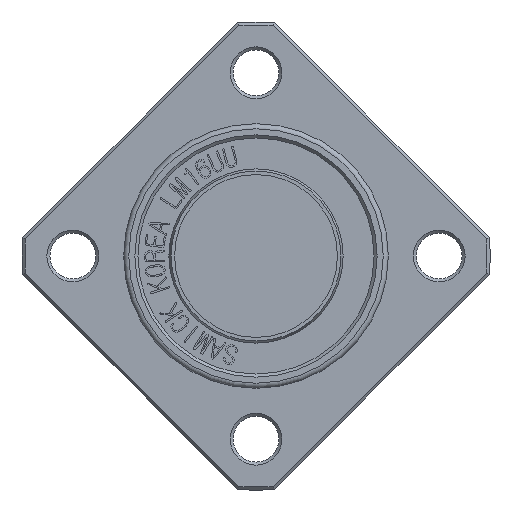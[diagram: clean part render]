
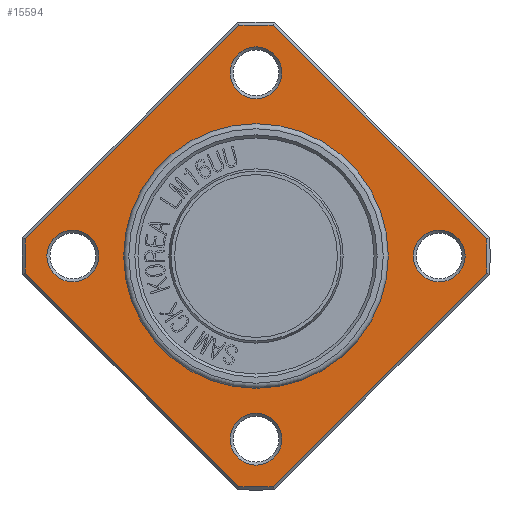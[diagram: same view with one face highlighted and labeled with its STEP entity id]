
A CAD part, front view. The second image highlights one B-rep face of the part: STEP entity #15594.
In plain terms, the highlighted planar face has unit normal (0, -1, 0).
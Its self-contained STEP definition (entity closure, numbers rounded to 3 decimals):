
#2215=FACE_BOUND('',#3388,.T.);
#2216=FACE_BOUND('',#3389,.T.);
#2217=FACE_BOUND('',#3390,.T.);
#2218=FACE_BOUND('',#3391,.T.);
#2219=FACE_BOUND('',#3392,.T.);
#2275=PLANE('',#16496);
#2516=FACE_OUTER_BOUND('',#3387,.T.);
#3387=EDGE_LOOP('',(#10751,#10752,#10753,#10754,#10755,#10756,#10757,#10758));
#3388=EDGE_LOOP('',(#10759));
#3389=EDGE_LOOP('',(#10760));
#3390=EDGE_LOOP('',(#10761,#10762));
#3391=EDGE_LOOP('',(#10763));
#3392=EDGE_LOOP('',(#10764));
#4315=LINE('',#18775,#5457);
#4316=LINE('',#18779,#5458);
#4317=LINE('',#18783,#5459);
#4318=LINE('',#18787,#5460);
#5457=VECTOR('',#16895,10.);
#5458=VECTOR('',#16898,10.);
#5459=VECTOR('',#16901,10.);
#5460=VECTOR('',#16904,10.);
#6606=CIRCLE('',#16494,2.55);
#6608=CIRCLE('',#16497,22.7);
#6609=CIRCLE('',#16498,22.7);
#6610=CIRCLE('',#16499,22.7);
#6611=CIRCLE('',#16500,22.7);
#6612=CIRCLE('',#16501,2.55);
#6613=CIRCLE('',#16502,2.55);
#6614=CIRCLE('',#16503,13.);
#6615=CIRCLE('',#16504,13.);
#6616=CIRCLE('',#16505,2.55);
#6700=VERTEX_POINT('',#18767);
#6702=VERTEX_POINT('',#18773);
#6703=VERTEX_POINT('',#18774);
#6704=VERTEX_POINT('',#18776);
#6705=VERTEX_POINT('',#18778);
#6706=VERTEX_POINT('',#18780);
#6707=VERTEX_POINT('',#18782);
#6708=VERTEX_POINT('',#18784);
#6709=VERTEX_POINT('',#18786);
#6710=VERTEX_POINT('',#18789);
#6711=VERTEX_POINT('',#18791);
#6712=VERTEX_POINT('',#18793);
#6713=VERTEX_POINT('',#18794);
#6714=VERTEX_POINT('',#18797);
#8318=EDGE_CURVE('',#6700,#6700,#6606,.T.);
#8321=EDGE_CURVE('',#6702,#6703,#4315,.T.);
#8322=EDGE_CURVE('',#6702,#6704,#6608,.T.);
#8323=EDGE_CURVE('',#6705,#6704,#4316,.T.);
#8324=EDGE_CURVE('',#6705,#6706,#6609,.T.);
#8325=EDGE_CURVE('',#6707,#6706,#4317,.T.);
#8326=EDGE_CURVE('',#6707,#6708,#6610,.T.);
#8327=EDGE_CURVE('',#6709,#6708,#4318,.T.);
#8328=EDGE_CURVE('',#6709,#6703,#6611,.T.);
#8329=EDGE_CURVE('',#6710,#6710,#6612,.T.);
#8330=EDGE_CURVE('',#6711,#6711,#6613,.T.);
#8331=EDGE_CURVE('',#6712,#6713,#6614,.T.);
#8332=EDGE_CURVE('',#6713,#6712,#6615,.T.);
#8333=EDGE_CURVE('',#6714,#6714,#6616,.T.);
#10751=ORIENTED_EDGE('',*,*,#8321,.F.);
#10752=ORIENTED_EDGE('',*,*,#8322,.T.);
#10753=ORIENTED_EDGE('',*,*,#8323,.F.);
#10754=ORIENTED_EDGE('',*,*,#8324,.T.);
#10755=ORIENTED_EDGE('',*,*,#8325,.F.);
#10756=ORIENTED_EDGE('',*,*,#8326,.T.);
#10757=ORIENTED_EDGE('',*,*,#8327,.F.);
#10758=ORIENTED_EDGE('',*,*,#8328,.T.);
#10759=ORIENTED_EDGE('',*,*,#8329,.F.);
#10760=ORIENTED_EDGE('',*,*,#8330,.F.);
#10761=ORIENTED_EDGE('',*,*,#8331,.F.);
#10762=ORIENTED_EDGE('',*,*,#8332,.F.);
#10763=ORIENTED_EDGE('',*,*,#8333,.F.);
#10764=ORIENTED_EDGE('',*,*,#8318,.F.);
#15594=ADVANCED_FACE('',(#2516,#2215,#2216,#2217,#2218,#2219),#2275,.T.);
#16494=AXIS2_PLACEMENT_3D('',#18768,#16888,#16889);
#16496=AXIS2_PLACEMENT_3D('',#18772,#16893,#16894);
#16497=AXIS2_PLACEMENT_3D('',#18777,#16896,#16897);
#16498=AXIS2_PLACEMENT_3D('',#18781,#16899,#16900);
#16499=AXIS2_PLACEMENT_3D('',#18785,#16902,#16903);
#16500=AXIS2_PLACEMENT_3D('',#18788,#16905,#16906);
#16501=AXIS2_PLACEMENT_3D('',#18790,#16907,#16908);
#16502=AXIS2_PLACEMENT_3D('',#18792,#16909,#16910);
#16503=AXIS2_PLACEMENT_3D('',#18795,#16911,#16912);
#16504=AXIS2_PLACEMENT_3D('',#18796,#16913,#16914);
#16505=AXIS2_PLACEMENT_3D('',#18798,#16915,#16916);
#16888=DIRECTION('center_axis',(0.,-1.,0.));
#16889=DIRECTION('ref_axis',(0.,0.,
1.));
#16893=DIRECTION('center_axis',(0.,-1.,0.));
#16894=DIRECTION('ref_axis',(0.,0.,-1.));
#16895=DIRECTION('',(-0.707,0.,-0.707));
#16896=DIRECTION('center_axis',(0.,-1.,0.));
#16897=DIRECTION('ref_axis',(1.,0.,0.));
#16898=DIRECTION('',(0.707,0.,-0.707));
#16899=DIRECTION('center_axis',(0.,-1.,0.));
#16900=DIRECTION('ref_axis',(1.,0.,0.));
#16901=DIRECTION('',(0.707,0.,0.707));
#16902=DIRECTION('center_axis',(0.,-1.,0.));
#16903=DIRECTION('ref_axis',(1.,0.,0.));
#16904=DIRECTION('',(-0.707,0.,0.707));
#16905=DIRECTION('center_axis',(0.,-1.,0.));
#16906=DIRECTION('ref_axis',(1.,0.,0.));
#16907=DIRECTION('center_axis',(0.,-1.,0.));
#16908=DIRECTION('ref_axis',(1.,0.,0.));
#16909=DIRECTION('center_axis',(0.,-1.,0.));
#16910=DIRECTION('ref_axis',(-1.,0.,0.));
#16911=DIRECTION('center_axis',(0.,-1.,0.));
#16912=DIRECTION('ref_axis',(1.,0.,0.));
#16913=DIRECTION('center_axis',(0.,-1.,0.));
#16914=DIRECTION('ref_axis',(1.,0.,0.));
#16915=DIRECTION('center_axis',(0.,-1.,0.));
#16916=DIRECTION('ref_axis',(0.,0.,-1.));
#18767=CARTESIAN_POINT('',(0.,23.,15.45));
#18768=CARTESIAN_POINT('Origin',(0.,23.,18.));
#18772=CARTESIAN_POINT('Origin',(13.,23.,0.));
#18773=CARTESIAN_POINT('',(22.637,23.,-1.687));
#18774=CARTESIAN_POINT('',(1.687,23.,-22.637));
#18775=CARTESIAN_POINT('',(10.136,23.,-14.189));
#18776=CARTESIAN_POINT('',(22.637,23.,1.687));
#18777=CARTESIAN_POINT('Origin',(0.,23.,0.));
#18778=CARTESIAN_POINT('',(1.687,23.,22.637));
#18779=CARTESIAN_POINT('',(20.689,23.,3.636));
#18780=CARTESIAN_POINT('',(-1.687,23.,22.637));
#18781=CARTESIAN_POINT('Origin',(0.,23.,0.));
#18782=CARTESIAN_POINT('',(-22.637,23.,1.687));
#18783=CARTESIAN_POINT('',(-3.636,23.,20.689));
#18784=CARTESIAN_POINT('',(-22.637,23.,-1.687));
#18785=CARTESIAN_POINT('Origin',(0.,23.,0.));
#18786=CARTESIAN_POINT('',(-1.687,23.,-22.637));
#18787=CARTESIAN_POINT('',(-14.189,23.,-10.136));
#18788=CARTESIAN_POINT('Origin',(0.,23.,0.));
#18789=CARTESIAN_POINT('',(15.45,23.,0.));
#18790=CARTESIAN_POINT('Origin',(18.,23.,0.));
#18791=CARTESIAN_POINT('',(-15.45,23.,0.));
#18792=CARTESIAN_POINT('Origin',(-18.,23.,0.));
#18793=CARTESIAN_POINT('',(13.,23.,0.));
#18794=CARTESIAN_POINT('',(-13.,23.,0.));
#18795=CARTESIAN_POINT('Origin',(0.,23.,0.));
#18796=CARTESIAN_POINT('Origin',(0.,23.,0.));
#18797=CARTESIAN_POINT('',(0.,23.,-15.45));
#18798=CARTESIAN_POINT('Origin',(0.,23.,-18.));
